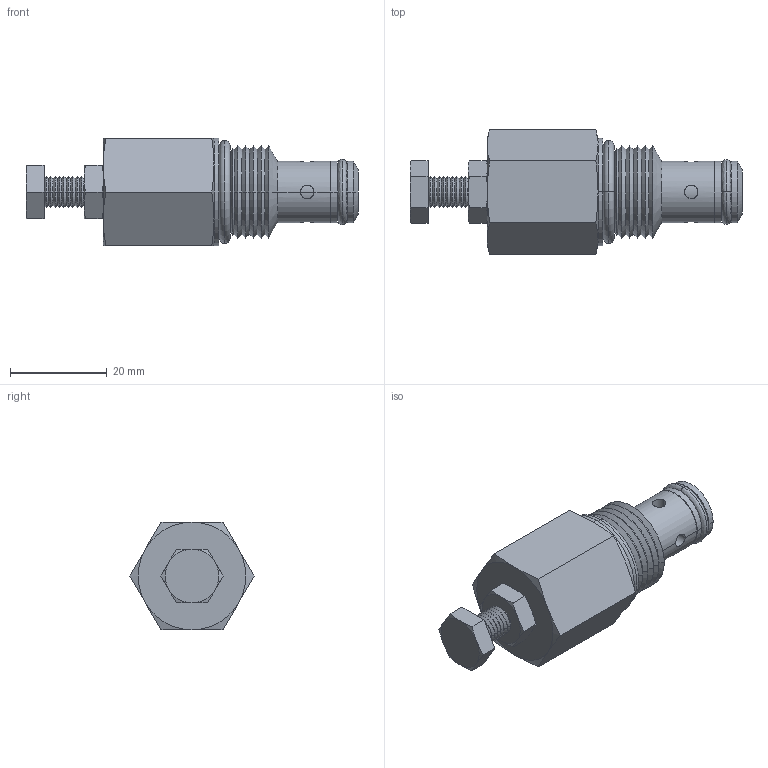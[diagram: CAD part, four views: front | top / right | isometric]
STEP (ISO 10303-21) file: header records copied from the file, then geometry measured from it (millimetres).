
FILE_DESCRIPTION((''),'2;1');
FILE_NAME('U:\Solid model CD\Solid model full\Mechanical\STEP\PBFCA00-3D Full.stp','2008-07-29T09:49:42',('Dan'),(''),'Autodesk Inventor 9','Autodesk Inventor 9','');
FILE_SCHEMA(('AUTOMOTIVE_DESIGN { 1 0 10303 214 1 1 1 1 }'));
Length unit declared in the file: inch
Products named in the file (6): PBFCA00-3D Full; PBFCA00-3D Full1; PBFCA00-3D Full2; PBFCA00-3D Full3; PBFCA00-3D Full4; PBFCA00-3D Full5
Assembly tree (5 placements, depth 2):
  PBFCA00-3D Full
    PBFCA00-3D Full1
    PBFCA00-3D Full2
    PBFCA00-3D Full3
    PBFCA00-3D Full4
    PBFCA00-3D Full5
Bounding box: 68.57 x 25.66 x 22.23 mm (x, y, z)
Volume: 16199.7 mm3; surface area: 6218.4 mm2
Topology: 6 solids, 6 shells, 183 faces, 386 edges, 220 vertices
Faces by surface type: cone 98, cylinder 32, plane 31, bspline 14, torus 8
Entity records: 5548 total; most frequent: CARTESIAN_POINT 1626, DIRECTION 838, ORIENTED_EDGE 772, EDGE_CURVE 386, AXIS2_PLACEMENT_3D 356, VERTEX_POINT 220, EDGE_LOOP 196, FACE_OUTER_BOUND 183
